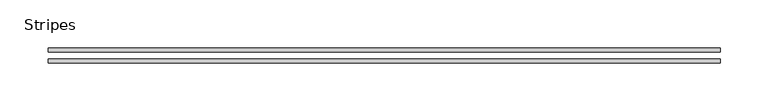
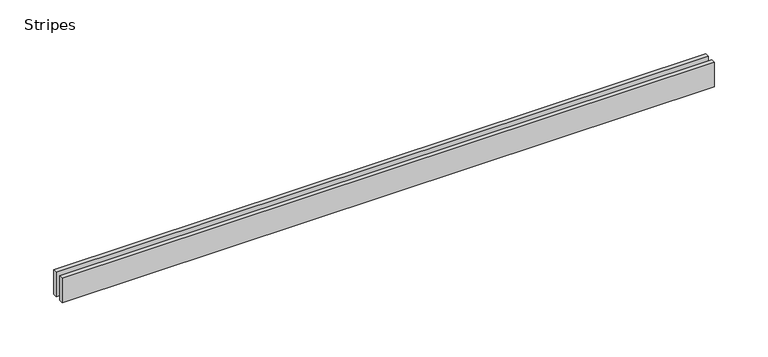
"""IFC4 building model written with IfcOpenShell, lengths in millimetres: sanitary terminal geometry, ZZZ_do not use_PF_ST_UN_grating for ShowerDrain S_ACO : Stripes."""

from ifc_helpers import new_model, si_unit, frame, origin, place, context, project, spatial, polyline, outline, extrude, source, transform, mapped, element, save


def stripes_7ee481b2(model_context):
    return source(origin(), model_context, "Body", "SweptSolid", [
        extrude(outline(polyline([(350.0, 8.0), (350.0, 3.5), (-350.0, 3.5), (-350.0, 8.0), (350.0, 8.0)])), frame((0.0, 0.0, -28.0), z_axis=(0.0, 0.0, 1.0), x_axis=(1.0, 0.0, 0.0)), (0.0, 0.0, 1.0), 28.0),
        extrude(outline(polyline([(350.0, -3.5), (350.0, -8.0), (-350.0, -8.0), (-350.0, -3.5), (350.0, -3.5)])), frame((0.0, 0.0, -28.0), z_axis=(0.0, 0.0, 1.0), x_axis=(1.0, 0.0, 0.0)), (0.0, 0.0, 1.0), 28.0),
    ])


if __name__ == "__main__":
    model = new_model("IFC4")
    model_context = context("Model", 3, world=origin())
    ifc_project = project(units=[si_unit("LENGTHUNIT", "METRE", prefix="MILLI")], contexts=[model_context])
    site = spatial("IfcSite", under=ifc_project)
    building = spatial("IfcBuilding", under=site)
    placement = place(None, origin())
    stripes_shape = stripes_7ee481b2(model_context)
    element("IfcSanitaryTerminal", 1, ObjectType="ZZZ_do not use_PF_ST_UN_grating for ShowerDrain S_ACO : Stripes", at=placement, inside=building, context=model_context, shape_type="MappedRepresentation", body=[
        mapped(stripes_shape, transform((0.0, 0.0, 0.0), x_axis=(1.0, 0.0, 0.0), y_axis=(0.0, 1.0, 0.0), z_axis=(0.0, 0.0, 1.0))),
    ])
    save(model, "model.ifc")
